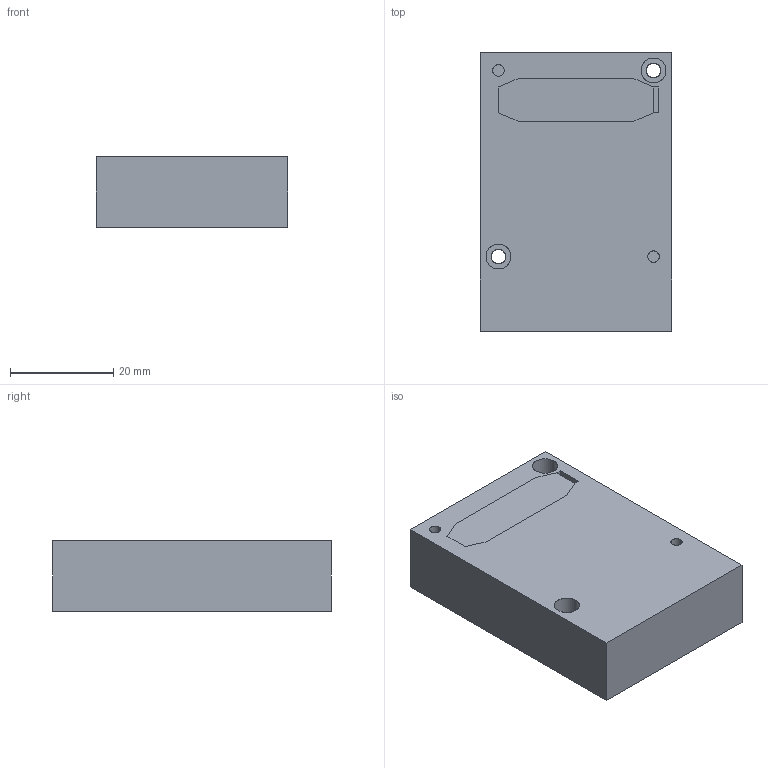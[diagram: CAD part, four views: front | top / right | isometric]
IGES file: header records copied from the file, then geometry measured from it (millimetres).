
Global section: preprocessor: SolidWorks 2008; organization: PanasonicElectricWorks; date: 090828.105111; units: millimetre
Bounding box: 37 x 53.8 x 13.6 mm (x, y, z)
Surface area: 9463.2 mm2 (no closed solid volume)
Topology: 0 solids, 0 shells, 108 faces, 980 edges, 980 vertices
Faces by surface type: bspline 86, revolution 22
